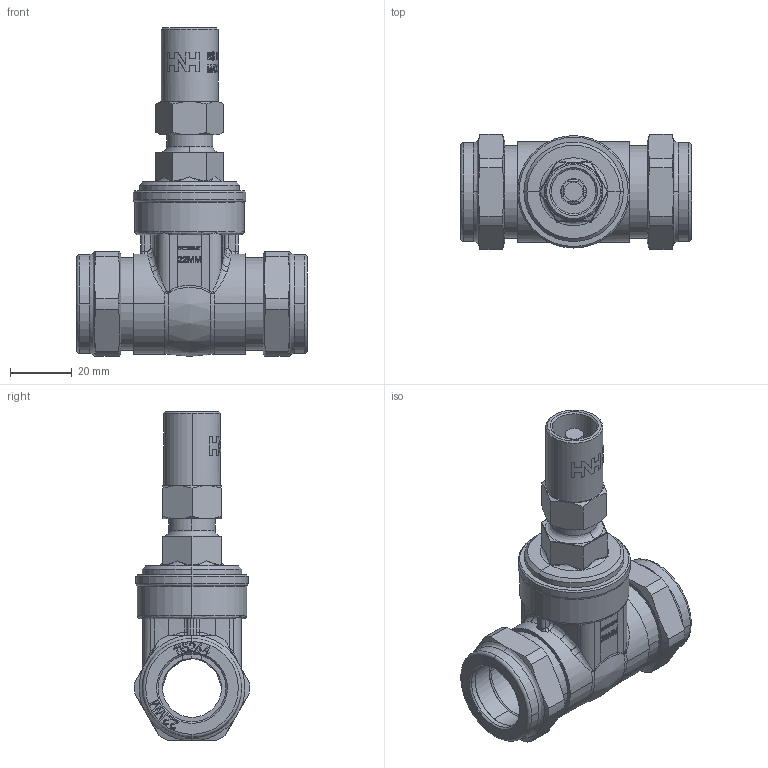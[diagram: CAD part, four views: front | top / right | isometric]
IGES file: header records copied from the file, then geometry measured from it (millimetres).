
Global section: file name: No Iges File Name specified; native system: AutoDesk Inventor R12.0; preprocessor: AutoDesk Inventor Iges Exporter R12.0; date: 20110309.113103; units: millimetre
Bounding box: 75.13 x 37.46 x 106.7 mm (x, y, z)
Volume: 66885.4 mm3; surface area: 27090.9 mm2
Topology: 1 solids, 3 shells, 1235 faces, 3298 edges, 2154 vertices
Faces by surface type: plane 544, bspline 439, cylinder 133, revolution 61, cone 42, torus 16
